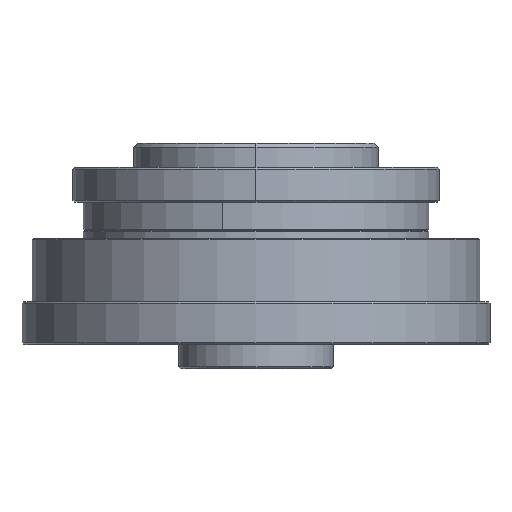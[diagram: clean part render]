
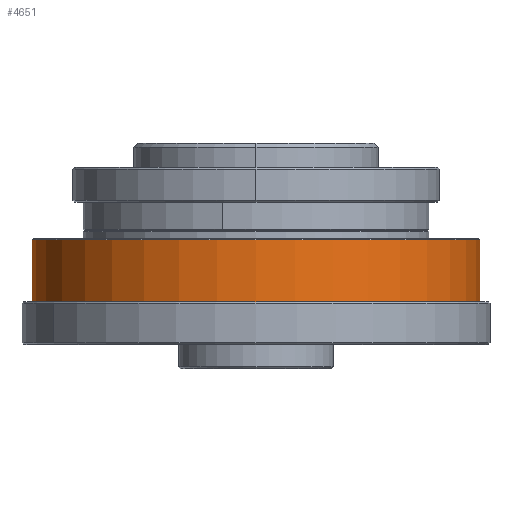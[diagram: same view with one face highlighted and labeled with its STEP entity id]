
A CAD part, front view. The second image highlights one B-rep face of the part: STEP entity #4651.
In plain terms, the highlighted cylindrical face has radius 55 mm (diameter 110 mm), a partial arc.
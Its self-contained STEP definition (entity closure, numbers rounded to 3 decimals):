
#28 = AXIS2_PLACEMENT_3D ( 'NONE', #7825, #7849, #7888 ) ;
#41 = LINE ( 'NONE', #7641, #9427 ) ;
#316 = CARTESIAN_POINT ( 'NONE',  ( -57.728, 0.091, 99.95 ) ) ;
#419 = FACE_OUTER_BOUND ( 'NONE', #683, .T. ) ;
#445 = VECTOR ( 'NONE', #9434, 1000. ) ;
#683 = EDGE_LOOP ( 'NONE', ( #9606, #9867, #4056, #7669 ) ) ;
#809 = DIRECTION ( 'NONE',  ( 1., 0., 0. ) ) ;
#852 = DIRECTION ( 'NONE',  ( 0., 0., -1. ) ) ;
#864 = CARTESIAN_POINT ( 'NONE',  ( -2.728, 0.091, 118.05 ) ) ;
#1011 = CYLINDRICAL_SURFACE ( 'NONE', #6680, 55. ) ;
#1832 = EDGE_CURVE ( 'NONE', #8271, #2486, #7462, .T. ) ;
#1873 = EDGE_CURVE ( 'NONE', #2486, #7949, #8072, .T. ) ;
#1994 = EDGE_CURVE ( 'NONE', #6783, #8271, #5657, .T. ) ;
#2486 = VERTEX_POINT ( 'NONE', #316 ) ;
#2501 = CARTESIAN_POINT ( 'NONE',  ( 52.272, 0.091, 99.95 ) ) ;
#4056 = ORIENTED_EDGE ( 'NONE', *, *, #1832, .T. ) ;
#4651 = ADVANCED_FACE ( 'NONE', ( #419 ), #1011, .T. ) ;
#4871 = CARTESIAN_POINT ( 'NONE',  ( -57.728, 0.091, 118.05 ) ) ;
#5657 = CIRCLE ( 'NONE', #7521, 55. ) ;
#6680 = AXIS2_PLACEMENT_3D ( 'NONE', #7583, #7923, #7713 ) ;
#6783 = VERTEX_POINT ( 'NONE', #7871 ) ;
#7462 = LINE ( 'NONE', #9544, #445 ) ;
#7521 = AXIS2_PLACEMENT_3D ( 'NONE', #864, #852, #809 ) ;
#7583 = CARTESIAN_POINT ( 'NONE',  ( -2.728, 0.091, 120.35 ) ) ;
#7641 = CARTESIAN_POINT ( 'NONE',  ( 52.272, 0.091, 120.35 ) ) ;
#7669 = ORIENTED_EDGE ( 'NONE', *, *, #1873, .T. ) ;
#7713 = DIRECTION ( 'NONE',  ( -1., 0., 0. ) ) ;
#7825 = CARTESIAN_POINT ( 'NONE',  ( -2.728, 0.091, 99.95 ) ) ;
#7849 = DIRECTION ( 'NONE',  ( 0., 0., 1. ) ) ;
#7871 = CARTESIAN_POINT ( 'NONE',  ( 52.272, 0.091, 118.05 ) ) ;
#7888 = DIRECTION ( 'NONE',  ( 1., 0., 0. ) ) ;
#7923 = DIRECTION ( 'NONE',  ( 0., 0., -1. ) ) ;
#7949 = VERTEX_POINT ( 'NONE', #2501 ) ;
#8072 = CIRCLE ( 'NONE', #28, 55. ) ;
#8091 = DIRECTION ( 'NONE',  ( 0., 0., -1. ) ) ;
#8271 = VERTEX_POINT ( 'NONE', #4871 ) ;
#8994 = EDGE_CURVE ( 'NONE', #6783, #7949, #41, .T. ) ;
#9427 = VECTOR ( 'NONE', #8091, 1000. ) ;
#9434 = DIRECTION ( 'NONE',  ( 0., 0., -1. ) ) ;
#9544 = CARTESIAN_POINT ( 'NONE',  ( -57.728, 0.091, 120.35 ) ) ;
#9606 = ORIENTED_EDGE ( 'NONE', *, *, #8994, .F. ) ;
#9867 = ORIENTED_EDGE ( 'NONE', *, *, #1994, .T. ) ;
